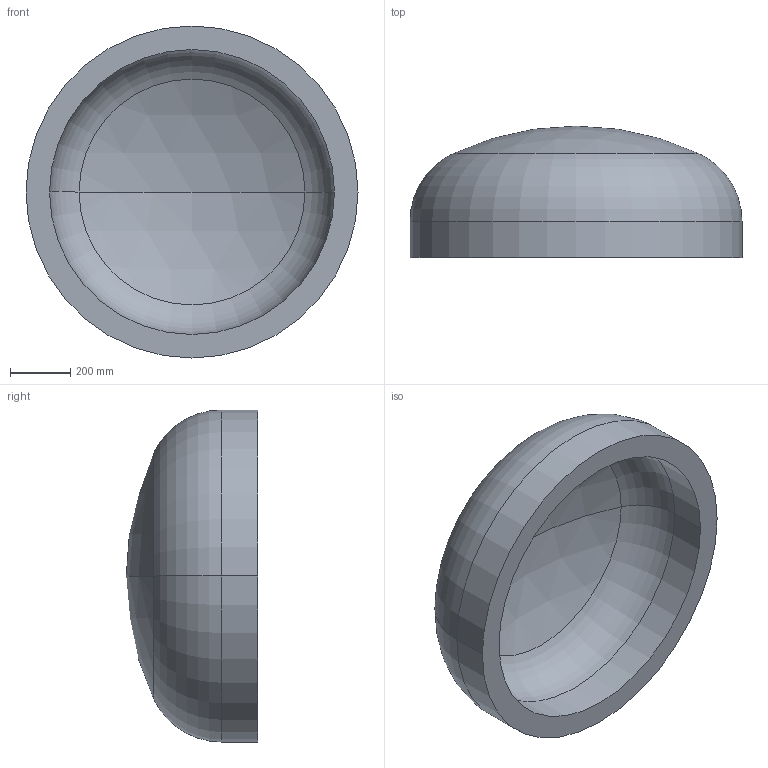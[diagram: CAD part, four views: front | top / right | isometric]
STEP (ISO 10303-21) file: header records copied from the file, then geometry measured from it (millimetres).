
FILE_DESCRIPTION (( 'STEP AP203' ), '1' );
FILE_NAME ('DIN 28013 Korbbogenform_-_Boden DIN 28013 - 1100 x 120 - I - s=78.step', '2016-07-01T09:13:15', ( '' ), ( '' ), 'SwSTEP 2.0', 'SolidWorks 2013', '' );
FILE_SCHEMA (( 'CONFIG_CONTROL_DESIGN' ));
Length unit declared in the file: millimetre
Products named in the file (1): DIN 28013 Korbbogenform_-_Boden DIN 28013 - 1100 x 120 - I - s=78
Bounding box: 1100 x 435.43 x 1100 mm (x, y, z)
Volume: 123984407.5 mm3; surface area: 3442264.3 mm2
Topology: 1 solids, 1 shells, 13 faces, 24 edges, 14 vertices
Faces by surface type: torus 4, cylinder 4, sphere 4, plane 1
Entity records: 407 total; most frequent: DIRECTION 72, CARTESIAN_POINT 52, ORIENTED_EDGE 48, AXIS2_PLACEMENT_3D 34, EDGE_CURVE 24, CIRCLE 20, VERTEX_POINT 14, EDGE_LOOP 14
